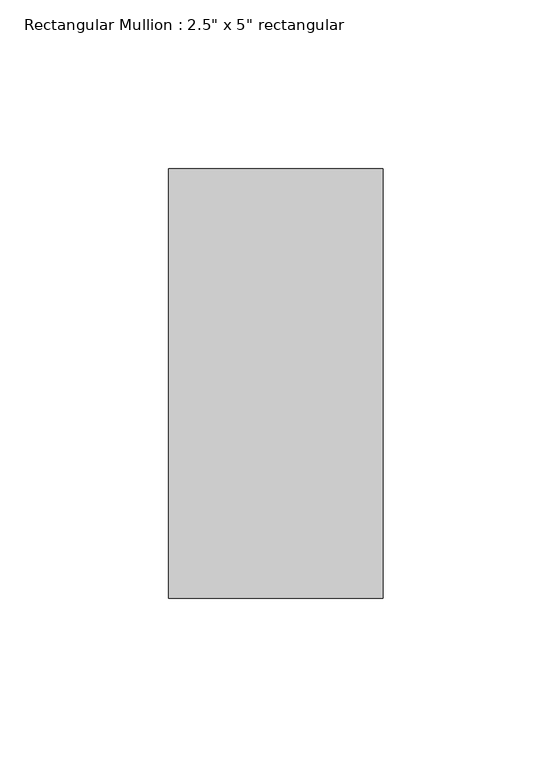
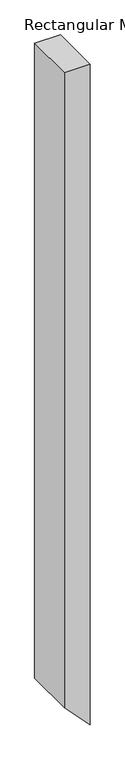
"""IFC4 building model written with IfcOpenShell, lengths in millimetres: member geometry."""

import ifcopenshell
import ifcopenshell.guid

model = None  # the IFC model being written
_history = None  # IfcOwnerHistory: only IFC2X3 demands one
_inside = {}  # id of a spatial element -> (the spatial element, [elements in it])
_under = {}  # id of a project, library or spatial element -> (it, [spatial elements below it])
_declared = {}  # id of a project -> (the project, [libraries it declares])
_typed = {}  # id of a type object -> (the type object, [elements of that type])
_made_of = {}  # id of a material, layer set ... -> (it, [elements and type objects made of it])


def new_model(schema):
    """Start an empty IFC model of exactly this schema.

    Asked for "IFC4X3", IfcOpenShell would pick the latest addendum, in which some entities
    have other attributes; the version numbers below select the first issue.
    IFC2X3 requires an IfcOwnerHistory on every rooted entity: one is made here for all.
    """
    global model, _history
    if schema == "IFC4X3":
        model = ifcopenshell.file(schema_version=(4, 3, 0, 0))
    else:
        model = ifcopenshell.file(schema=schema)
    _inside.clear()
    _under.clear()
    _declared.clear()
    _typed.clear()
    _made_of.clear()
    _history = None
    if model.schema == "IFC2X3":
        org = make("IfcOrganization", Name="unknown")
        user = make(
            "IfcPersonAndOrganization",
            ThePerson=make("IfcPerson", FamilyName="unknown"),
            TheOrganization=org,
        )
        app = make(
            "IfcApplication",
            ApplicationDeveloper=org,
            Version="unknown",
            ApplicationFullName="unknown",
            ApplicationIdentifier="unknown",
        )
        _history = make(
            "IfcOwnerHistory",
            OwningUser=user,
            OwningApplication=app,
            ChangeAction="ADDED",
            CreationDate=0,
        )
    return model


def make(cls, **values):
    """One entity of the class cls with the attributes given. An attribute that is None is left unset."""
    return model.create_entity(
        cls, **{name: value for name, value in values.items() if value is not None}
    )


def rooted(cls, **values):
    """An entity with a GlobalId (a new one), such as an element, a storey or a relation."""
    return make(cls, GlobalId=ifcopenshell.guid.new(), OwnerHistory=_history, **values)


def si_unit(unit_type, name, prefix=None):
    """IfcSIUnit, for example si_unit("LENGTHUNIT", "METRE", prefix="MILLI")."""
    return make("IfcSIUnit", UnitType=unit_type, Prefix=prefix, Name=name)


def assignment(units):
    """IfcUnitAssignment: the units of a project."""
    return None if units is None else make("IfcUnitAssignment", Units=units)


def point(xyz):
    """IfcCartesianPoint."""
    return None if xyz is None else make("IfcCartesianPoint", Coordinates=xyz)


def direction(xyz):
    """IfcDirection."""
    return None if xyz is None else make("IfcDirection", DirectionRatios=xyz)


def frame(location, z_axis=None, x_axis=None):
    """IfcAxis2Placement3D, a coordinate frame: its origin and axes. An axis left out is left unset."""
    return make(
        "IfcAxis2Placement3D",
        Location=point(location),
        Axis=direction(z_axis),
        RefDirection=direction(x_axis),
    )


def origin():
    """The frame at (0, 0, 0) with its axes left unset."""
    return frame((0.0, 0.0, 0.0))


def place(relative_to, where):
    """IfcLocalPlacement: puts the frame where relative to a parent placement (None: the world)."""
    return make(
        "IfcLocalPlacement", PlacementRelTo=relative_to, RelativePlacement=where
    )


def context(
    kind, dimensions, precision=None, world=None, true_north=None, identifier=None
):
    """IfcGeometricRepresentationContext, for example the 3D "Model" context."""
    return make(
        "IfcGeometricRepresentationContext",
        ContextIdentifier=identifier,
        ContextType=kind,
        CoordinateSpaceDimension=dimensions,
        Precision=precision,
        WorldCoordinateSystem=world,
        TrueNorth=true_north,
    )


def project(units=None, contexts=None):
    """IfcProject with its units and contexts."""
    return rooted(
        "IfcProject",
        Name="project",
        RepresentationContexts=contexts,
        UnitsInContext=assignment(units),
    )


def spatial(cls, under=None, at=None, **own):
    """A site, building, storey or space (cls), placed at a placement, below another one or the project."""
    s = rooted(cls, ObjectPlacement=at, **own)
    if under is not None:
        _under.setdefault(under.id(), (under, []))[1].append(s)
    return s


def polyline(points):
    """IfcPolyline through the points."""
    return make("IfcPolyline", Points=[point(p) for p in points])


def outline(outer, holes=None, kind="AREA"):
    """IfcArbitraryClosedProfileDef: a profile drawn as a closed curve; with holes, ...WithVoids."""
    if holes is None:
        return make("IfcArbitraryClosedProfileDef", ProfileType=kind, OuterCurve=outer)
    return make(
        "IfcArbitraryProfileDefWithVoids",
        ProfileType=kind,
        OuterCurve=outer,
        InnerCurves=holes,
    )


def extrude(swept, where, along, depth):
    """IfcExtrudedAreaSolid: the profile swept, set in the frame where, extruded along a direction by depth."""
    return make(
        "IfcExtrudedAreaSolid",
        SweptArea=swept,
        Position=where,
        ExtrudedDirection=direction(along),
        Depth=depth,
    )


def shape(context_of_items, identifier, shape_type, items):
    """IfcShapeRepresentation: the items that make up one representation, for example the "Body"."""
    return make(
        "IfcShapeRepresentation",
        ContextOfItems=context_of_items,
        RepresentationIdentifier=identifier,
        RepresentationType=shape_type,
        Items=items,
    )


def source(mapping_origin, context_of_items, identifier, shape_type, items):
    """IfcRepresentationMap: a shape defined once, which mapped items show again and again."""
    return make(
        "IfcRepresentationMap",
        MappingOrigin=mapping_origin,
        MappedRepresentation=shape(context_of_items, identifier, shape_type, items),
    )


def transform(
    local_origin,
    x_axis=None,
    y_axis=None,
    z_axis=None,
    scale=None,
    scale2=None,
    scale3=None,
    uniform=True,
):
    """IfcCartesianTransformationOperator3D, or its non-uniform kind. x_axis, y_axis, z_axis: its Axis1, 2, 3."""
    if uniform:
        return make(
            "IfcCartesianTransformationOperator3D",
            Axis1=direction(x_axis),
            Axis2=direction(y_axis),
            LocalOrigin=point(local_origin),
            Scale=scale,
            Axis3=direction(z_axis),
        )
    return make(
        "IfcCartesianTransformationOperator3DnonUniform",
        Axis1=direction(x_axis),
        Axis2=direction(y_axis),
        LocalOrigin=point(local_origin),
        Scale=scale,
        Axis3=direction(z_axis),
        Scale2=scale2,
        Scale3=scale3,
    )


def mapped(mapping_source, mapping_target):
    """IfcMappedItem: shows the shape of a source again, moved by a transform."""
    return make(
        "IfcMappedItem", MappingSource=mapping_source, MappingTarget=mapping_target
    )


def made_of(thing, what):
    """Note that an element or type object is made of a material, layer set ...; save() writes the relation."""
    if what is not None:
        _made_of.setdefault(what.id(), (what, []))[1].append(thing)
    return thing


def element(
    cls,
    number,
    at=None,
    inside=None,
    cuts=None,
    type_object=None,
    material=None,
    context=None,
    identifier="Body",
    shape_type=None,
    held_by="IfcProductDefinitionShape",
    body=None,
    shapes=None,
    **own,
):
    """One element of the class cls, such as IfcWall. Its Tag is "e" and its number.

    at: its placement. inside: the storey or other place that contains it. cuts: it is an
    opening in that element (IfcRelVoidsElement). A single representation is given by context,
    identifier, shape_type and body (its items); several are given by shapes. held_by: the class
    of the entity that holds the representations. save() writes the other relations.
    """
    e = rooted(cls, Tag="e%d" % number, ObjectPlacement=at, **own)
    if body is not None:
        shapes = [shape(context, identifier, shape_type, body)]
    if shapes is not None:
        e.Representation = make(held_by, Representations=shapes)
    if inside is not None:
        _inside.setdefault(inside.id(), (inside, []))[1].append(e)
    if cuts is not None:
        rooted(
            "IfcRelVoidsElement", RelatingBuildingElement=cuts, RelatedOpeningElement=e
        )
    if type_object is not None:
        _typed.setdefault(type_object.id(), (type_object, []))[1].append(e)
    return made_of(e, material)


def aggregate(whole, parts):
    """IfcRelAggregates: a whole, such as a stair, and the parts it consists of."""
    return rooted("IfcRelAggregates", RelatingObject=whole, RelatedObjects=parts)


def save(model, path):
    """Write the relations noted so far, then the file.

    IfcRelAggregates (storeys below a building ...), IfcRelContainedInSpatialStructure (elements
    in a storey), IfcRelDefinesByType, IfcRelAssociatesMaterial and IfcRelDeclares: one each for
    every whole, place, type object, material and project.
    """
    for whole, parts in _under.values():
        aggregate(whole, parts)
    for where, things in _inside.values():
        rooted(
            "IfcRelContainedInSpatialStructure",
            RelatedElements=things,
            RelatingStructure=where,
        )
    for kind, things in _typed.values():
        rooted("IfcRelDefinesByType", RelatedObjects=things, RelatingType=kind)
    for what, things in _made_of.values():
        rooted("IfcRelAssociatesMaterial", RelatedObjects=things, RelatingMaterial=what)
    for by, libraries in _declared.values():
        rooted("IfcRelDeclares", RelatingContext=by, RelatedDefinitions=libraries)
    model.write(path)


def member_62641596(model_context):
    return source(origin(), model_context, "Body", "SweptSolid", [
        extrude(outline(polyline([(0.0, 0.0), (0.0, -63.5), (-1655.1952627, -63.5), (-1721.3953118, 0.0), (0.0, 0.0)])), frame((0.0, -63.5, 0.0), z_axis=(0.0, 1.0, 0.0), x_axis=(0.0, 0.0, 1.0)), (0.0, 0.0, 1.0), 127.0),
    ])


if __name__ == "__main__":
    model = new_model("IFC4")
    model_context = context("Model", 3, world=origin())
    ifc_project = project(units=[si_unit("LENGTHUNIT", "METRE", prefix="MILLI")], contexts=[model_context])
    site = spatial("IfcSite", under=ifc_project)
    building = spatial("IfcBuilding", under=site)
    placement = place(None, origin())
    member_shape = member_62641596(model_context)
    element("IfcMember", 1, ObjectType="Rectangular Mullion : 2.5\" x 5\" rectangular", at=placement, inside=building, context=model_context, shape_type="MappedRepresentation", body=[
        mapped(member_shape, transform((0.0, 0.0, 0.0), x_axis=(1.0, 0.0, 0.0), y_axis=(0.0, 1.0, 0.0), z_axis=(0.0, 0.0, 1.0))),
    ])
    save(model, "model.ifc")
